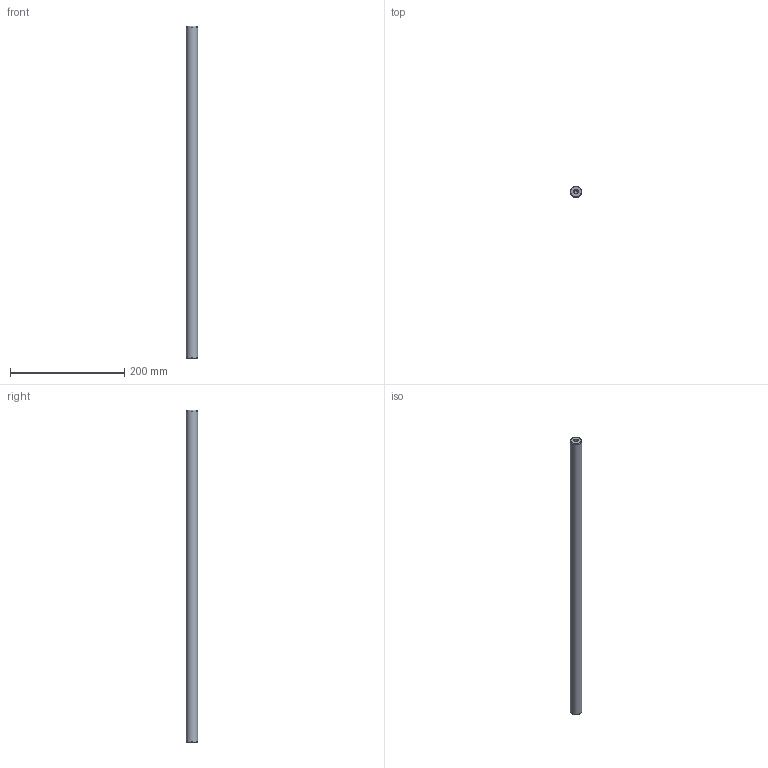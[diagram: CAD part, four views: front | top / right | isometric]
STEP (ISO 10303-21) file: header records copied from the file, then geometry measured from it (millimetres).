
FILE_DESCRIPTION( ( 'STEP AP214' ), '1' );
FILE_NAME( 'U:/Etudes/Top Solid/BIBLIO 3D AVM/STEP/PNEUMATIQUE/GUIDAGES/Accessoires/Colonnes/Ø20x582.step', '2005-05-04T12:49:15', ( ' ' ), ( ' ' ), 'XStep 1.0', ' ', ' ' );
FILE_SCHEMA( ( 'automotive_design' ) );
Length unit declared in the file: metre
Products named in the file (1): 1
Bounding box: 20 x 20 x 582 mm (x, y, z)
Volume: 181270.7 mm3; surface area: 38012.7 mm2
Topology: 1 solids, 1 shells, 13 faces, 27 edges, 16 vertices
Faces by surface type: cone 6, cylinder 5, plane 2
Full cylindrical faces by diameter (mm): 6.647 x4, 20 x1
Entity records: 382 total; most frequent: DIRECTION 52, CARTESIAN_POINT 40, AXIS2_PLACEMENT_3D 26, EDGE_LOOP 24, ORIENTED_EDGE 24, FACE_OUTER_BOUND 18, VERTEX_POINT 14, STYLED_ITEM 13
